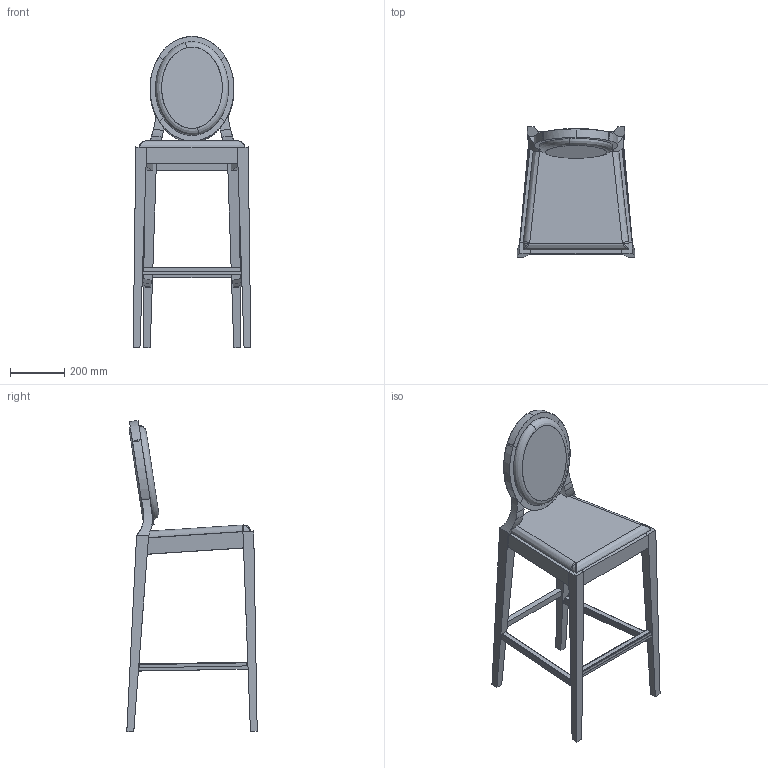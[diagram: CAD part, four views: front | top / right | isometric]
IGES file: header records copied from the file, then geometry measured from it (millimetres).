
Start section: SolidWorks IGES file using analytic representation for surfaces
Global section: file name: C:\Users\Adao\Documents\Trab Adao\Desenho técnico PRODUÇÃO\J M S\GIOCONDA\Banco\Actualização 03-2010\M-451+MONALISA\Banco (3D)\Banco MONALISA M-454.IGS; native system: SolidWorks 2012; preprocessor: SolidWorks 2012; author: Adao; date: 121219.133513; units: millimetre
Bounding box: 434.32 x 481.49 x 1148.6 mm (x, y, z)
Surface area: 1777176.5 mm2 (no closed solid volume)
Topology: 0 solids, 0 shells, 346 faces, 2650 edges, 2648 vertices
Faces by surface type: bspline 305, revolution 41
